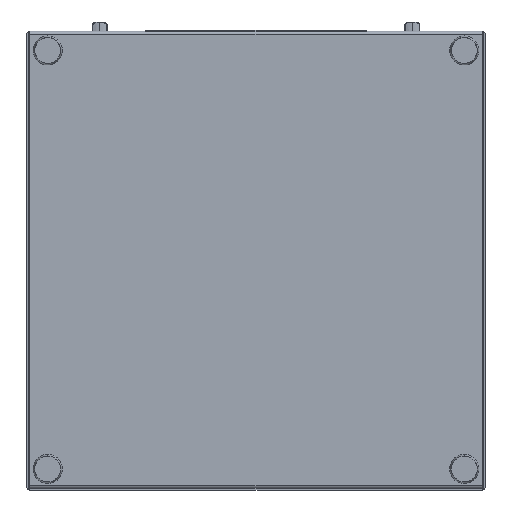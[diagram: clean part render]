
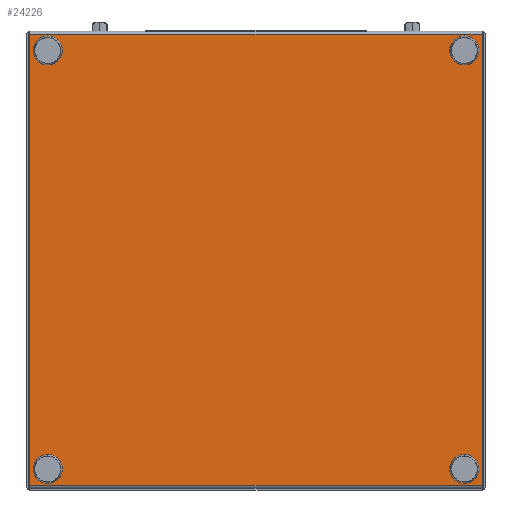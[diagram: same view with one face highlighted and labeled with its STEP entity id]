
A CAD part, front view. The second image highlights one B-rep face of the part: STEP entity #24226.
In plain terms, the highlighted planar face has unit normal (0, -1, 0).
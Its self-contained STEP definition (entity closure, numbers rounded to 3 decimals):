
#2483 = ORIENTED_EDGE ( 'NONE', *, *, #9071, .F. ) ;
#2484 = ORIENTED_EDGE ( 'NONE', *, *, #8933, .F. ) ;
#2486 = ORIENTED_EDGE ( 'NONE', *, *, #9163, .F. ) ;
#2496 = ORIENTED_EDGE ( 'NONE', *, *, #8946, .F. ) ;
#2497 = ORIENTED_EDGE ( 'NONE', *, *, #12412, .F. ) ;
#2500 = ORIENTED_EDGE ( 'NONE', *, *, #8889, .F. ) ;
#2505 = ORIENTED_EDGE ( 'NONE', *, *, #12470, .F. ) ;
#2510 = ORIENTED_EDGE ( 'NONE', *, *, #9141, .F. ) ;
#2511 = ORIENTED_EDGE ( 'NONE', *, *, #12585, .F. ) ;
#2512 = ORIENTED_EDGE ( 'NONE', *, *, #9083, .F. ) ;
#2514 = ORIENTED_EDGE ( 'NONE', *, *, #12481, .F. ) ;
#2519 = ORIENTED_EDGE ( 'NONE', *, *, #9117, .F. ) ;
#4492 = CARTESIAN_POINT ( 'NONE',  ( 272.5, -162.5, 324.987 ) ) ;
#4493 = DIRECTION ( 'NONE',  ( 0., -1., 0. ) ) ;
#4494 = DIRECTION ( 'NONE',  ( 0., 0., -1. ) ) ;
#4953 = CIRCLE ( 'NONE', #19791, 4.555 ) ;
#4956 = CIRCLE ( 'NONE', #19557, 4.555 ) ;
#5033 = CIRCLE ( 'NONE', #19599, 4.555 ) ;
#5200 = CIRCLE ( 'NONE', #19760, 4.555 ) ;
#8889 = EDGE_CURVE ( 'NONE', #13236, #13233, #4956, .T. ) ;
#8933 = EDGE_CURVE ( 'NONE', #15949, #15754, #9701, .T. ) ;
#8946 = EDGE_CURVE ( 'NONE', #13250, #13169, #5033, .T. ) ;
#9071 = EDGE_CURVE ( 'NONE', #16010, #15949, #10216, .T. ) ;
#9083 = EDGE_CURVE ( 'NONE', #13180, #13211, #4953, .T. ) ;
#9117 = EDGE_CURVE ( 'NONE', #15927, #16010, #10519, .T. ) ;
#9141 = EDGE_CURVE ( 'NONE', #13197, #13242, #5200, .T. ) ;
#9163 = EDGE_CURVE ( 'NONE', #15754, #15927, #10692, .T. ) ;
#9587 = CARTESIAN_POINT ( 'NONE',  ( -272.5, -162.5, 324.987 ) ) ;
#9588 = DIRECTION ( 'NONE',  ( 0., -1., 0. ) ) ;
#9589 = DIRECTION ( 'NONE',  ( 0., 0., -1. ) ) ;
#9701 = LINE ( 'NONE', #9702, #19577 ) ;
#9702 = CARTESIAN_POINT ( 'NONE',  ( 297.5, -162.5, -244.013 ) ) ;
#9703 = DIRECTION ( 'NONE',  ( -1., 0., 0. ) ) ;
#9817 = CARTESIAN_POINT ( 'NONE',  ( 272.5, -162.5, 324.987 ) ) ;
#9818 = DIRECTION ( 'NONE',  ( 0., -1., 0. ) ) ;
#9819 = DIRECTION ( 'NONE',  ( 0., 0., -1. ) ) ;
#10216 = LINE ( 'NONE', #10217, #19519 ) ;
#10217 = CARTESIAN_POINT ( 'NONE',  ( 296., -162.5, 0. ) ) ;
#10218 = DIRECTION ( 'NONE',  ( 0., 0., -1. ) ) ;
#10284 = CARTESIAN_POINT ( 'NONE',  ( -272.5, -162.5, -222.513 ) ) ;
#10288 = DIRECTION ( 'NONE',  ( 0., -1., 0. ) ) ;
#10289 = DIRECTION ( 'NONE',  ( 0., 0., -1. ) ) ;
#10519 = LINE ( 'NONE', #10520, #19764 ) ;
#10520 = CARTESIAN_POINT ( 'NONE',  ( 297.5, -162.5, 346.487 ) ) ;
#10521 = DIRECTION ( 'NONE',  ( 1., 0., 0. ) ) ;
#10625 = CARTESIAN_POINT ( 'NONE',  ( 272.5, -162.5, -222.513 ) ) ;
#10626 = DIRECTION ( 'NONE',  ( 0., -1., 0. ) ) ;
#10627 = DIRECTION ( 'NONE',  ( 0., 0., -1. ) ) ;
#10692 = LINE ( 'NONE', #10693, #19724 ) ;
#10693 = CARTESIAN_POINT ( 'NONE',  ( -296., -162.5, 0. ) ) ;
#10694 = DIRECTION ( 'NONE',  ( 0., 0., 1. ) ) ;
#12047 = CARTESIAN_POINT ( 'NONE',  ( 272.5, -162.5, 320.432 ) ) ;
#12053 = CARTESIAN_POINT ( 'NONE',  ( -272.5, -162.5, -217.957 ) ) ;
#12064 = CARTESIAN_POINT ( 'NONE',  ( 272.5, -162.5, -217.957 ) ) ;
#12071 = CARTESIAN_POINT ( 'NONE',  ( -272.5, -162.5, -227.068 ) ) ;
#12082 = CARTESIAN_POINT ( 'NONE',  ( -272.5, -162.5, 320.432 ) ) ;
#12084 = CARTESIAN_POINT ( 'NONE',  ( -272.5, -162.5, 329.543 ) ) ;
#12089 = CARTESIAN_POINT ( 'NONE',  ( 272.5, -162.5, -227.068 ) ) ;
#12093 = CARTESIAN_POINT ( 'NONE',  ( 272.5, -162.5, 329.543 ) ) ;
#12412 = EDGE_CURVE ( 'NONE', #13169, #13250, #24987, .T. ) ;
#12470 = EDGE_CURVE ( 'NONE', #13233, #13236, #24896, .T. ) ;
#12481 = EDGE_CURVE ( 'NONE', #13211, #13180, #25045, .T. ) ;
#12585 = EDGE_CURVE ( 'NONE', #13242, #13197, #25041, .T. ) ;
#13169 = VERTEX_POINT ( 'NONE', #12047 ) ;
#13180 = VERTEX_POINT ( 'NONE', #12053 ) ;
#13197 = VERTEX_POINT ( 'NONE', #12064 ) ;
#13211 = VERTEX_POINT ( 'NONE', #12071 ) ;
#13233 = VERTEX_POINT ( 'NONE', #12082 ) ;
#13236 = VERTEX_POINT ( 'NONE', #12084 ) ;
#13242 = VERTEX_POINT ( 'NONE', #12089 ) ;
#13250 = VERTEX_POINT ( 'NONE', #12093 ) ;
#15754 = VERTEX_POINT ( 'NONE', #17366 ) ;
#15927 = VERTEX_POINT ( 'NONE', #17419 ) ;
#15949 = VERTEX_POINT ( 'NONE', #17426 ) ;
#16010 = VERTEX_POINT ( 'NONE', #17443 ) ;
#16087 = CARTESIAN_POINT ( 'NONE',  ( -272.5, -162.5, 324.987 ) ) ;
#16088 = DIRECTION ( 'NONE',  ( 0., -1., 0. ) ) ;
#16089 = DIRECTION ( 'NONE',  ( 0., 0., -1. ) ) ;
#16225 = CARTESIAN_POINT ( 'NONE',  ( -272.5, -162.5, -222.513 ) ) ;
#16226 = DIRECTION ( 'NONE',  ( 0., -1., 0. ) ) ;
#16227 = DIRECTION ( 'NONE',  ( 0., 0., -1. ) ) ;
#17027 = CARTESIAN_POINT ( 'NONE',  ( 272.5, -162.5, -222.513 ) ) ;
#17028 = DIRECTION ( 'NONE',  ( 0., -1., 0. ) ) ;
#17029 = DIRECTION ( 'NONE',  ( 0., 0., -1. ) ) ;
#17366 = CARTESIAN_POINT ( 'NONE',  ( -296., -162.5, -244.013 ) ) ;
#17419 = CARTESIAN_POINT ( 'NONE',  ( -296., -162.5, 346.487 ) ) ;
#17426 = CARTESIAN_POINT ( 'NONE',  ( 296., -162.5, -244.013 ) ) ;
#17443 = CARTESIAN_POINT ( 'NONE',  ( 296., -162.5, 346.487 ) ) ;
#18217 = PLANE ( 'NONE',  #20551 ) ;
#18218 = CARTESIAN_POINT ( 'NONE',  ( 297.5, -162.5, 0. ) ) ;
#18219 = DIRECTION ( 'NONE',  ( 0., 1., 0. ) ) ;
#18220 = DIRECTION ( 'NONE',  ( 0., 0., 1. ) ) ;
#19519 = VECTOR ( 'NONE', #10218, 1000. ) ;
#19557 = AXIS2_PLACEMENT_3D ( 'NONE', #9587, #9588, #9589 ) ;
#19577 = VECTOR ( 'NONE', #9703, 1000. ) ;
#19599 = AXIS2_PLACEMENT_3D ( 'NONE', #9817, #9818, #9819 ) ;
#19724 = VECTOR ( 'NONE', #10694, 1000. ) ;
#19760 = AXIS2_PLACEMENT_3D ( 'NONE', #10625, #10626, #10627 ) ;
#19764 = VECTOR ( 'NONE', #10521, 1000. ) ;
#19791 = AXIS2_PLACEMENT_3D ( 'NONE', #10284, #10288, #10289 ) ;
#19995 = AXIS2_PLACEMENT_3D ( 'NONE', #4492, #4493, #4494 ) ;
#20085 = AXIS2_PLACEMENT_3D ( 'NONE', #16087, #16088, #16089 ) ;
#20095 = AXIS2_PLACEMENT_3D ( 'NONE', #16225, #16226, #16227 ) ;
#20242 = AXIS2_PLACEMENT_3D ( 'NONE', #17027, #17028, #17029 ) ;
#20551 = AXIS2_PLACEMENT_3D ( 'NONE', #18218, #18219, #18220 ) ;
#20554 = FACE_BOUND ( 'NONE', #23796, .T. ) ;
#20555 = FACE_BOUND ( 'NONE', #23799, .T. ) ;
#20556 = FACE_BOUND ( 'NONE', #23801, .T. ) ;
#20557 = FACE_BOUND ( 'NONE', #23803, .T. ) ;
#20558 = FACE_OUTER_BOUND ( 'NONE', #23808, .T. ) ;
#23796 = EDGE_LOOP ( 'NONE', ( #2514, #2512 ) ) ;
#23799 = EDGE_LOOP ( 'NONE', ( #2511, #2510 ) ) ;
#23801 = EDGE_LOOP ( 'NONE', ( #2505, #2500 ) ) ;
#23803 = EDGE_LOOP ( 'NONE', ( #2497, #2496 ) ) ;
#23808 = EDGE_LOOP ( 'NONE', ( #2486, #2484, #2483, #2519 ) ) ;
#24226 = ADVANCED_FACE ( 'NONE', ( #20554, #20555, #20556, #20557, #20558 ), #18217, .F. ) ;
#24896 = CIRCLE ( 'NONE', #20085, 4.555 ) ;
#24987 = CIRCLE ( 'NONE', #19995, 4.555 ) ;
#25041 = CIRCLE ( 'NONE', #20242, 4.555 ) ;
#25045 = CIRCLE ( 'NONE', #20095, 4.555 ) ;
